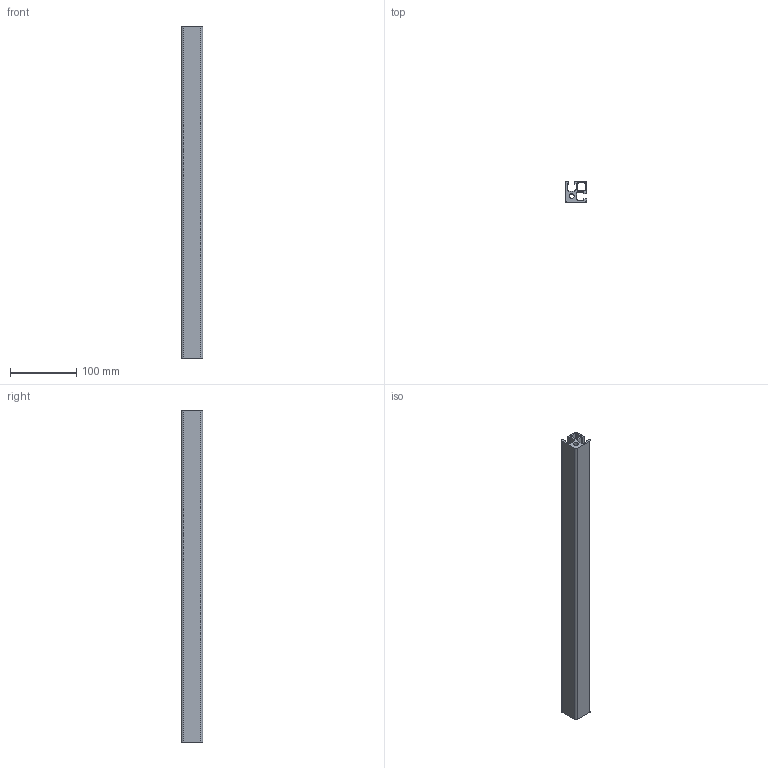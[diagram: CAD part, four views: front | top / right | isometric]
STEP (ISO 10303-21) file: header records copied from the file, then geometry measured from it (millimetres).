
FILE_DESCRIPTION (( 'STEP AP214' ), '1' );
FILE_NAME ('SA02003.step', '2024-12-03T16:28:38', ( '' ), ( '' ), 'SwSTEP 2.0', 'SolidWorks 2023', '' );
FILE_SCHEMA (( 'AUTOMOTIVE_DESIGN' ));
Length unit declared in the file: millimetre
Products named in the file (1): SA02003
Bounding box: 32 x 32 x 500 mm (x, y, z)
Volume: 235965.6 mm3; surface area: 134463.6 mm2
Topology: 1 solids, 1 shells, 39 faces, 111 edges, 74 vertices
Faces by surface type: plane 24, cylinder 15
Full cylindrical faces by diameter (mm): 7.45 x1
Entity records: 1301 total; most frequent: CARTESIAN_POINT 224, ORIENTED_EDGE 220, DIRECTION 220, EDGE_CURVE 110, LINE 80, VECTOR 80, VERTEX_POINT 74, AXIS2_PLACEMENT_3D 70
